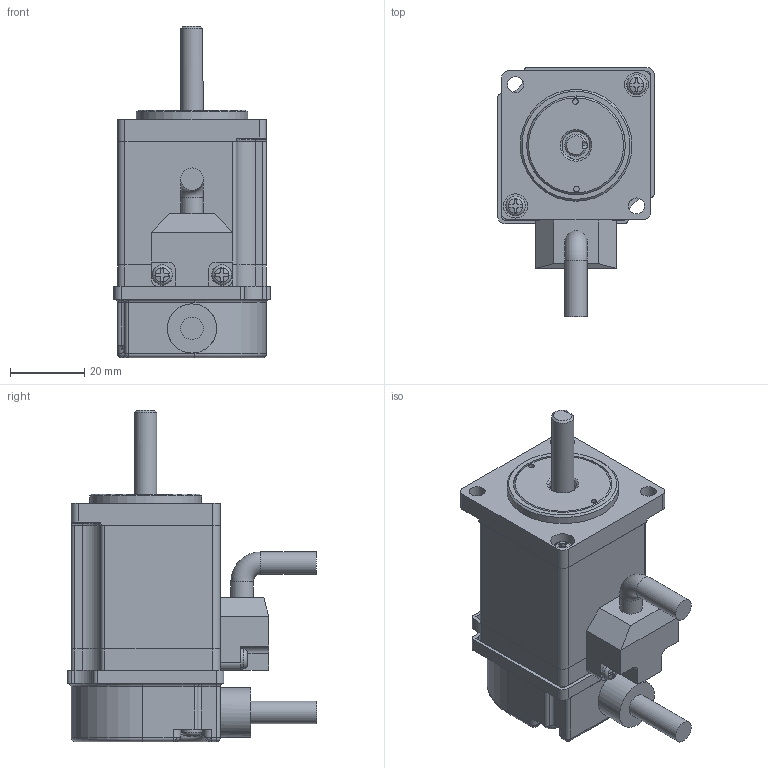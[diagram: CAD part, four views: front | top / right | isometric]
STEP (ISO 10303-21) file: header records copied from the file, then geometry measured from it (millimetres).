
FILE_DESCRIPTION (( 'STEP AP214' ), '1' );
FILE_NAME ('GYS500D5-RA2.STEP', '2023-05-25T05:13:59', ( 'mu' ), ( '' ), 'SwSTEP 2.0', 'SolidWorks 2021', '' );
FILE_SCHEMA (( 'AUTOMOTIVE_DESIGN' ));
Length unit declared in the file: millimetre
Products named in the file (1): GYS500D5-RA2
Bounding box: 42 x 66.88 x 89 mm (x, y, z)
Surface area: 23429.3 mm2 (no closed solid volume)
Topology: 0 solids, 16 shells, 305 faces, 879 edges, 583 vertices
Faces by surface type: plane 151, cylinder 110, torus 23, sphere 9, cone 8, bspline 4
Full cylindrical faces by diameter (mm): 1.5 x2, 4.3 x2, 5.4 x2, 6 x4, 6.5 x2, 7.5 x2, 13.2 x1, 26.5 x1, 30 x1
Entity records: 13553 total; most frequent: CARTESIAN_POINT 2297, DIRECTION 1711, ORIENTED_EDGE 1489, EDGE_CURVE 834, AXIS2_PLACEMENT_3D 628, VERTEX_POINT 576, LINE 455, VECTOR 455
